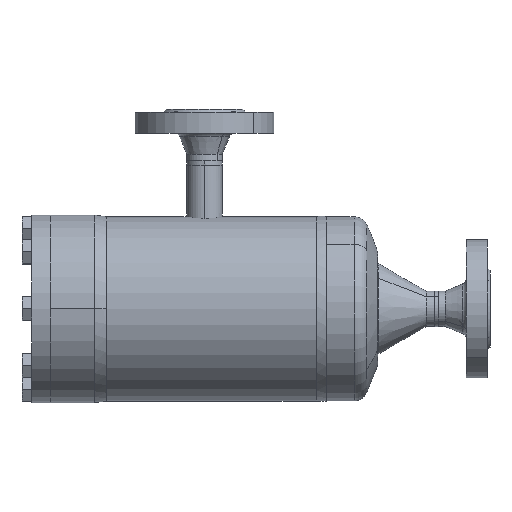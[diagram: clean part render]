
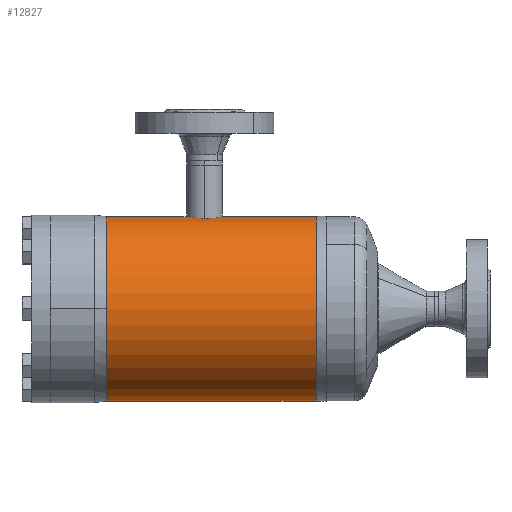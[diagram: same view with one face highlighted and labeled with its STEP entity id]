
A CAD part, left-side view. The second image highlights one B-rep face of the part: STEP entity #12827.
In plain terms, the highlighted cylindrical face has radius 69.85 mm (diameter 139.7 mm), a partial arc.
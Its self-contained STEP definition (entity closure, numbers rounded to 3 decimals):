
#704 = B_SPLINE_CURVE_WITH_KNOTS ( 'NONE', 3,
 ( #708, #709, #710, #711, #712, #713, #714, #715, #716, #717, #718, #719, #720, #721, #722, #723, #728, #729, #730, #731, #732, #733, #734, #735, #736 ),
 .UNSPECIFIED., .F., .F.,
 ( 4, 2, 2, 2, 2, 2, 2, 2, 2, 2, 1, 2, 4 ),
 ( 0.037, 0.039, 0.04, 0.041, 0.043, 0.044, 0.046, 0.048, 0.051, 0.052, 0.053, 0.054, 0.055 ),
 .UNSPECIFIED. ) ;
#708 = CARTESIAN_POINT ( 'NONE',  ( -11.75, 88., 68.855 ) ) ;
#709 = CARTESIAN_POINT ( 'NONE',  ( -11.75, 87.232, 68.855 ) ) ;
#710 = CARTESIAN_POINT ( 'NONE',  ( -11.675, 86.468, 68.867 ) ) ;
#711 = CARTESIAN_POINT ( 'NONE',  ( -11.449, 85.328, 68.905 ) ) ;
#712 = CARTESIAN_POINT ( 'NONE',  ( -11.354, 84.951, 68.921 ) ) ;
#713 = CARTESIAN_POINT ( 'NONE',  ( -11.13, 84.215, 68.958 ) ) ;
#714 = CARTESIAN_POINT ( 'NONE',  ( -11.001, 83.855, 68.978 ) ) ;
#715 = CARTESIAN_POINT ( 'NONE',  ( -10.708, 83.147, 69.025 ) ) ;
#716 = CARTESIAN_POINT ( 'NONE',  ( -10.544, 82.801, 69.05 ) ) ;
#717 = CARTESIAN_POINT ( 'NONE',  ( -10.181, 82.122, 69.104 ) ) ;
#718 = CARTESIAN_POINT ( 'NONE',  ( -9.981, 81.788, 69.134 ) ) ;
#719 = CARTESIAN_POINT ( 'NONE',  ( -9.338, 80.827, 69.224 ) ) ;
#720 = CARTESIAN_POINT ( 'NONE',  ( -8.853, 80.236, 69.289 ) ) ;
#721 = CARTESIAN_POINT ( 'NONE',  ( -7.77, 79.152, 69.419 ) ) ;
#722 = CARTESIAN_POINT ( 'NONE',  ( -7.166, 78.657, 69.484 ) ) ;
#723 = CARTESIAN_POINT ( 'NONE',  ( -5.892, 77.805, 69.604 ) ) ;
#728 = CARTESIAN_POINT ( 'NONE',  ( -5.218, 77.444, 69.659 ) ) ;
#729 = CARTESIAN_POINT ( 'NONE',  ( -4.149, 77., 69.728 ) ) ;
#730 = CARTESIAN_POINT ( 'NONE',  ( -3.782, 76.869, 69.749 ) ) ;
#731 = CARTESIAN_POINT ( 'NONE',  ( -3.044, 76.645, 69.785 ) ) ;
#732 = CARTESIAN_POINT ( 'NONE',  ( -2.299, 76.458, 69.815 ) ) ;
#733 = CARTESIAN_POINT ( 'NONE',  ( -1.541, 76.345, 69.834 ) ) ;
#734 = CARTESIAN_POINT ( 'NONE',  ( -0.776, 76.269, 69.847 ) ) ;
#735 = CARTESIAN_POINT ( 'NONE',  ( -0.388, 76.25, 69.85 ) ) ;
#736 = CARTESIAN_POINT ( 'NONE',  ( 0., 76.25, 69.85 ) ) ;
#1128 = CARTESIAN_POINT ( 'NONE',  ( 0., 162.478, 69.85 ) ) ;
#1141 = CARTESIAN_POINT ( 'NONE',  ( 0., 162.478, -69.85 ) ) ;
#1231 = LINE ( 'NONE', #1232, #1233 ) ;
#1232 = CARTESIAN_POINT ( 'NONE',  ( 0., 0., -69.85 ) ) ;
#1233 = VECTOR ( 'NONE', #1234, 1000. ) ;
#1234 = DIRECTION ( 'NONE',  ( 0., -1., 0. ) ) ;
#1525 = B_SPLINE_CURVE_WITH_KNOTS ( 'NONE', 3,
 ( #1526, #1527, #1528, #1532, #1533, #1534, #1535, #1536, #1537, #1538, #1539, #1540, #1541, #1542, #1543, #1544, #1545, #1546, #1547, #1550, #1551, #1552, #1553, #1554, #1555, #1556, #1557, #1558 ),
 .UNSPECIFIED., .F., .F.,
 ( 4, 2, 2, 2, 2, 2, 2, 2, 2, 2, 2, 2, 2, 4 ),
 ( 0.018, 0.02, 0.021, 0.023, 0.024, 0.025, 0.026, 0.028, 0.03, 0.031, 0.032, 0.035, 0.036, 0.037 ),
 .UNSPECIFIED. ) ;
#1526 = CARTESIAN_POINT ( 'NONE',  ( 0., 99.75, 69.85 ) ) ;
#1527 = CARTESIAN_POINT ( 'NONE',  ( -0.384, 99.75, 69.85 ) ) ;
#1528 = CARTESIAN_POINT ( 'NONE',  ( -0.769, 99.731, 69.847 ) ) ;
#1532 = CARTESIAN_POINT ( 'NONE',  ( -1.541, 99.655, 69.834 ) ) ;
#1533 = CARTESIAN_POINT ( 'NONE',  ( -1.925, 99.598, 69.824 ) ) ;
#1534 = CARTESIAN_POINT ( 'NONE',  ( -3.055, 99.372, 69.787 ) ) ;
#1535 = CARTESIAN_POINT ( 'NONE',  ( -3.788, 99.149, 69.751 ) ) ;
#1536 = CARTESIAN_POINT ( 'NONE',  ( -4.856, 98.706, 69.682 ) ) ;
#1537 = CARTESIAN_POINT ( 'NONE',  ( -5.208, 98.54, 69.656 ) ) ;
#1538 = CARTESIAN_POINT ( 'NONE',  ( -5.887, 98.176, 69.602 ) ) ;
#1539 = CARTESIAN_POINT ( 'NONE',  ( -6.216, 97.979, 69.574 ) ) ;
#1540 = CARTESIAN_POINT ( 'NONE',  ( -6.851, 97.554, 69.514 ) ) ;
#1541 = CARTESIAN_POINT ( 'NONE',  ( -7.158, 97.326, 69.483 ) ) ;
#1542 = CARTESIAN_POINT ( 'NONE',  ( -7.751, 96.84, 69.419 ) ) ;
#1543 = CARTESIAN_POINT ( 'NONE',  ( -8.037, 96.58, 69.387 ) ) ;
#1544 = CARTESIAN_POINT ( 'NONE',  ( -8.857, 95.76, 69.288 ) ) ;
#1545 = CARTESIAN_POINT ( 'NONE',  ( -9.342, 95.168, 69.224 ) ) ;
#1546 = CARTESIAN_POINT ( 'NONE',  ( -9.979, 94.214, 69.134 ) ) ;
#1547 = CARTESIAN_POINT ( 'NONE',  ( -10.177, 93.886, 69.105 ) ) ;
#1550 = CARTESIAN_POINT ( 'NONE',  ( -10.541, 93.205, 69.05 ) ) ;
#1551 = CARTESIAN_POINT ( 'NONE',  ( -10.708, 92.854, 69.025 ) ) ;
#1552 = CARTESIAN_POINT ( 'NONE',  ( -11.149, 91.788, 68.955 ) ) ;
#1553 = CARTESIAN_POINT ( 'NONE',  ( -11.372, 91.055, 68.918 ) ) ;
#1554 = CARTESIAN_POINT ( 'NONE',  ( -11.598, 89.924, 68.88 ) ) ;
#1555 = CARTESIAN_POINT ( 'NONE',  ( -11.655, 89.54, 68.871 ) ) ;
#1556 = CARTESIAN_POINT ( 'NONE',  ( -11.731, 88.768, 68.858 ) ) ;
#1557 = CARTESIAN_POINT ( 'NONE',  ( -11.75, 88.384, 68.855 ) ) ;
#1558 = CARTESIAN_POINT ( 'NONE',  ( -11.75, 88., 68.855 ) ) ;
#1829 = VERTEX_POINT ( 'NONE', #12743 ) ;
#1956 = CIRCLE ( 'NONE', #1957, 69.85 ) ;
#1957 = AXIS2_PLACEMENT_3D ( 'NONE', #1958, #1959, #1960 ) ;
#1958 = CARTESIAN_POINT ( 'NONE',  ( 0., 162.478, 0. ) ) ;
#1959 = DIRECTION ( 'NONE',  ( 0., -1., 0. ) ) ;
#1960 = DIRECTION ( 'NONE',  ( 0., 0., -1. ) ) ;
#2343 = CARTESIAN_POINT ( 'NONE',  ( 0., 3.522, -69.85 ) ) ;
#4141 = CARTESIAN_POINT ( 'NONE',  ( 0., 99.75, 69.85 ) ) ;
#4306 = CARTESIAN_POINT ( 'NONE',  ( 0., 3.522, 69.85 ) ) ;
#4563 = VERTEX_POINT ( 'NONE', #1128 ) ;
#4719 = LINE ( 'NONE', #4720, #4721 ) ;
#4720 = CARTESIAN_POINT ( 'NONE',  ( 0., 0., 69.85 ) ) ;
#4721 = VECTOR ( 'NONE', #4722, 1000. ) ;
#4722 = DIRECTION ( 'NONE',  ( 0., -1., 0. ) ) ;
#4802 = EDGE_CURVE ( 'NONE', #11177, #5707, #1231, .T. ) ;
#5255 = FACE_OUTER_BOUND ( 'NONE', #9156, .T. ) ;
#5256 = CYLINDRICAL_SURFACE ( 'NONE', #5257, 69.85 ) ;
#5257 = AXIS2_PLACEMENT_3D ( 'NONE', #5258, #5259, #5260 ) ;
#5258 = CARTESIAN_POINT ( 'NONE',  ( 0., 0., 0. ) ) ;
#5259 = DIRECTION ( 'NONE',  ( 0., -1., 0. ) ) ;
#5260 = DIRECTION ( 'NONE',  ( 0., 0., -1. ) ) ;
#5341 = EDGE_CURVE ( 'NONE', #4563, #11177, #1956, .T. ) ;
#5437 = ORIENTED_EDGE ( 'NONE', *, *, #5341, .T. ) ;
#5707 = VERTEX_POINT ( 'NONE', #2343 ) ;
#6281 = ORIENTED_EDGE ( 'NONE', *, *, #8483, .F. ) ;
#6555 = ORIENTED_EDGE ( 'NONE', *, *, #4802, .T. ) ;
#6818 = VERTEX_POINT ( 'NONE', #4141 ) ;
#6839 = VERTEX_POINT ( 'NONE', #4306 ) ;
#7048 = EDGE_CURVE ( 'NONE', #4563, #6818, #4719, .T. ) ;
#7177 = CIRCLE ( 'NONE', #7178, 69.85 ) ;
#7178 = AXIS2_PLACEMENT_3D ( 'NONE', #7179, #7180, #7181 ) ;
#7179 = CARTESIAN_POINT ( 'NONE',  ( 0., 3.522, 0. ) ) ;
#7180 = DIRECTION ( 'NONE',  ( 0., -1., 0. ) ) ;
#7181 = DIRECTION ( 'NONE',  ( 0., 0., -1. ) ) ;
#8444 = CARTESIAN_POINT ( 'NONE',  ( 0., 76.25, 69.85 ) ) ;
#8483 = EDGE_CURVE ( 'NONE', #6839, #5707, #7177, .T. ) ;
#8803 = LINE ( 'NONE', #8804, #8805 ) ;
#8804 = CARTESIAN_POINT ( 'NONE',  ( 0., 0., 69.85 ) ) ;
#8805 = VECTOR ( 'NONE', #8806, 1000. ) ;
#8806 = DIRECTION ( 'NONE',  ( 0., -1., 0. ) ) ;
#9120 = VERTEX_POINT ( 'NONE', #8444 ) ;
#9156 = EDGE_LOOP ( 'NONE', ( #11758, #5437, #6555, #6281, #13836, #11392, #11296 ) ) ;
#9546 = EDGE_CURVE ( 'NONE', #9120, #6839, #8803, .T. ) ;
#11139 = EDGE_CURVE ( 'NONE', #1829, #9120, #704, .T. ) ;
#11177 = VERTEX_POINT ( 'NONE', #1141 ) ;
#11249 = EDGE_CURVE ( 'NONE', #6818, #1829, #1525, .T. ) ;
#11296 = ORIENTED_EDGE ( 'NONE', *, *, #11249, .F. ) ;
#11392 = ORIENTED_EDGE ( 'NONE', *, *, #11139, .F. ) ;
#11758 = ORIENTED_EDGE ( 'NONE', *, *, #7048, .F. ) ;
#12743 = CARTESIAN_POINT ( 'NONE',  ( -11.75, 88., 68.855 ) ) ;
#12827 = ADVANCED_FACE ( 'NONE', ( #5255 ), #5256, .T. ) ;
#13836 = ORIENTED_EDGE ( 'NONE', *, *, #9546, .F. ) ;
